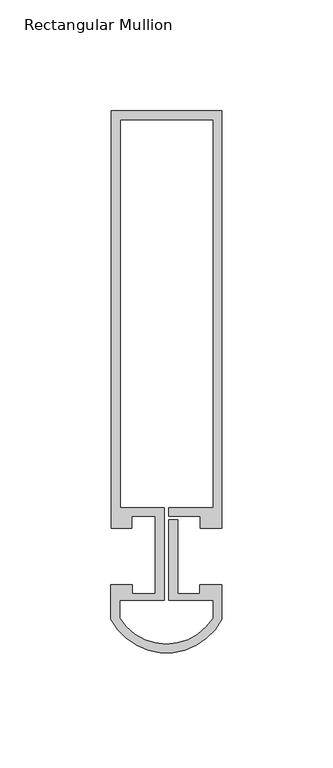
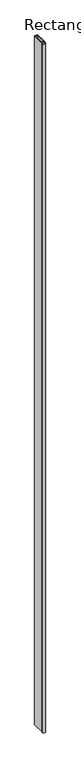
"""IFC4 building model written with IfcOpenShell, lengths in millimetres: member geometry, Rectangular Mullion : Reynaers_CW-50_Transom-Transom_Horizontal_188.5mm_Facecap-07."""

from ifc_helpers import new_model, si_unit, point, frame, frame_2d, origin, place, context, project, spatial, polyline, circle_curve, trimmed, segment, composite_curve, outline, extrude, source, transform, mapped, element, save


def rectangular_mullion_a785de51(model_context):
    return source(origin(), model_context, "Body", "SweptSolid", [
        extrude(outline(composite_curve([segment(polyline([(25.1995941, 12.7331291), (15.499, 12.7331291), (15.499, 18.1331291), (1.2995941, 18.1331291), (1.2995941, 22.1331291), (21.1995941, 22.1331291), (21.1995941, 197.2331291), (-20.8004059, 197.2331291), (-20.8004059, 22.1331291), (-0.9004059, 22.1331291), (-0.9004059, -19.7331291), (-20.960579, -19.7331291), (-20.960579, -27.7331291)]), True, "CONTINUOUS"), segment(trimmed(circle_curve(frame_2d((0.1195075, -14.5934909)), 24.8398901), [point((-20.960579, -27.7331291))], [point((21.1995941, -27.7331291))], True, "CARTESIAN"), True, "CONTINUOUS"), segment(polyline([(21.1995941, -27.7331291), (21.1995941, -19.7331291), (1.2995941, -19.7331291), (1.2995941, 16.7615089), (5.2995941, 16.7615089), (5.2995941, -16.7331291), (15.2996495, -16.7331291), (15.2996495, -12.7331291), (25.1995941, -12.7331291), (25.1995941, -28.2927678)]), True, "CONTINUOUS"), segment(trimmed(circle_curve(frame_2d((0.1195075, -15.0907737)), 28.3426074), [point((25.1995941, -28.2927678))], [point((-24.960579, -28.2927678))], False, "CARTESIAN"), True, "CONTINUOUS"), segment(polyline([(-24.960579, -28.2927678), (-24.960579, -12.7331291), (-15.2996495, -12.7331291), (-15.2996495, -16.7331291), (-4.9004059, -16.7331291), (-4.9004059, 18.1331291), (-15.499, 18.1331291), (-15.499, 12.7331291), (-24.8004059, 12.7331291), (-24.8004059, 201.2331291), (25.1995941, 201.2331291), (25.1995941, 12.7331291)]), True, "CONTINUOUS")], self_intersect=False)), frame((0.0, 0.0, -12000.0), z_axis=(0.0, 0.0, 1.0), x_axis=(1.0, 0.0, 0.0)), (0.0, 0.0, 1.0), 12000.0),
    ])


if __name__ == "__main__":
    model = new_model("IFC4")
    model_context = context("Model", 3, world=origin())
    ifc_project = project(units=[si_unit("LENGTHUNIT", "METRE", prefix="MILLI")], contexts=[model_context])
    site = spatial("IfcSite", under=ifc_project)
    building = spatial("IfcBuilding", under=site)
    placement = place(None, origin())
    rectangular_mullion_shape = rectangular_mullion_a785de51(model_context)
    element("IfcMember", 1, ObjectType="Rectangular Mullion : Reynaers_CW-50_Transom-Transom_Horizontal_188.5mm_Facecap-07", at=placement, inside=building, context=model_context, shape_type="MappedRepresentation", body=[
        mapped(rectangular_mullion_shape, transform((0.0, 0.0, 0.0), x_axis=(1.0, 0.0, 0.0), y_axis=(0.0, 1.0, 0.0), z_axis=(0.0, 0.0, 1.0))),
    ])
    save(model, "model.ifc")
